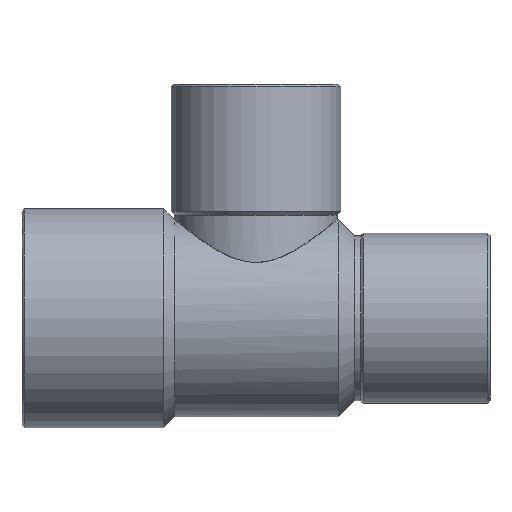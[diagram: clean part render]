
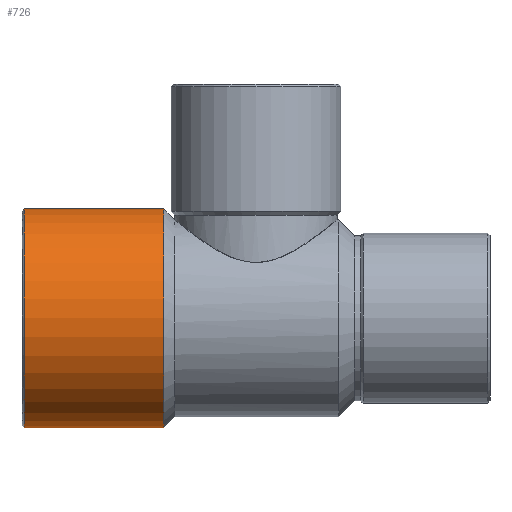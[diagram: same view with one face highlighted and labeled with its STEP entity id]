
A CAD part, top view. The second image highlights one B-rep face of the part: STEP entity #726.
In plain terms, the highlighted cylindrical face has radius 8.9 mm (diameter 17.8 mm), a partial arc.
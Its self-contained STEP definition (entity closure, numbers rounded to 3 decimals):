
#195=CARTESIAN_POINT('',(-7.5,8.9,0.0));
#196=VERTEX_POINT('',#195);
#205=CARTESIAN_POINT('',(-7.5,-8.9,0.));
#206=VERTEX_POINT('',#205);
#207=CARTESIAN_POINT('',(-7.5,0.0,0.0));
#208=DIRECTION('',(1.0,0.0,0.0));
#209=DIRECTION('',(0.0,1.0,0.0));
#210=AXIS2_PLACEMENT_3D('',#207,#208,#209);
#211=CIRCLE('',#210,8.9);
#212=EDGE_CURVE('',#196,#206,#211,.T.);
#695=CARTESIAN_POINT('',(-13.25,0.0,0.0));
#696=DIRECTION('',(1.0,0.0,0.0));
#697=DIRECTION('',(0.0,1.0,0.0));
#698=AXIS2_PLACEMENT_3D('',#695,#696,#697);
#699=CYLINDRICAL_SURFACE('',#698,8.9);
#700=CARTESIAN_POINT('',(-18.8,8.9,0.));
#701=VERTEX_POINT('',#700);
#702=CARTESIAN_POINT('',(-18.8,8.9,0.));
#703=DIRECTION('',(1.0,0.0,0.0));
#704=VECTOR('',#703,11.3);
#705=LINE('',#702,#704);
#706=EDGE_CURVE('',#701,#196,#705,.T.);
#707=ORIENTED_EDGE('',*,*,#706,.F.);
#708=CARTESIAN_POINT('',(-18.8,-8.9,0.));
#709=VERTEX_POINT('',#708);
#710=CARTESIAN_POINT('',(-18.8,0.0,0.0));
#711=DIRECTION('',(-1.0,0.0,0.0));
#712=DIRECTION('',(0.0,-1.0,0.0));
#713=AXIS2_PLACEMENT_3D('',#710,#711,#712);
#714=CIRCLE('',#713,8.9);
#715=EDGE_CURVE('',#709,#701,#714,.T.);
#716=ORIENTED_EDGE('',*,*,#715,.F.);
#717=CARTESIAN_POINT('',(-7.5,-8.9,0.));
#718=DIRECTION('',(-1.0,0.0,0.0));
#719=VECTOR('',#718,11.3);
#720=LINE('',#717,#719);
#721=EDGE_CURVE('',#206,#709,#720,.T.);
#722=ORIENTED_EDGE('',*,*,#721,.F.);
#723=ORIENTED_EDGE('',*,*,#212,.F.);
#724=EDGE_LOOP('',(#707,#716,#722,#723));
#725=FACE_OUTER_BOUND('',#724,.T.);
#726=ADVANCED_FACE('',(#725),#699,.T.);
